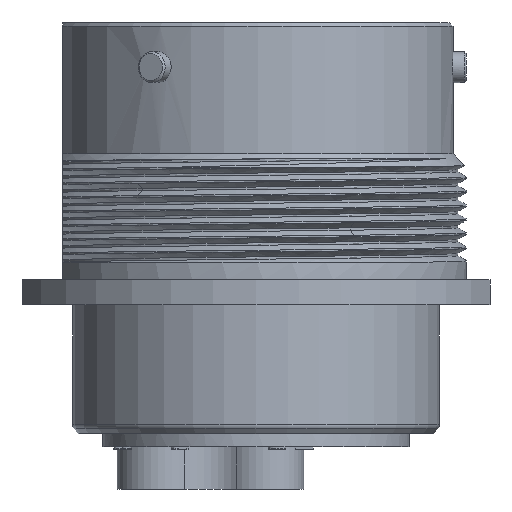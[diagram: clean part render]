
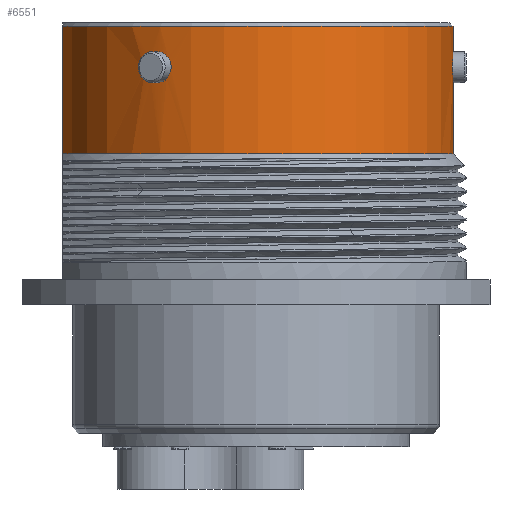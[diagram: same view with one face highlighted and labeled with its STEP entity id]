
A CAD part, left-side view. The second image highlights one B-rep face of the part: STEP entity #6551.
In plain terms, the highlighted cylindrical face has radius 20.053 mm (diameter 40.107 mm), a partial arc.
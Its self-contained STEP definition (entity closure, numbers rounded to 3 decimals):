
#177=CARTESIAN_POINT('',(0.,0.,
-0.381));
#178=DIRECTION('',(0.,0.,-1.));
#179=DIRECTION('',(0.196,0.981,0.));
#180=AXIS2_PLACEMENT_3D('',#177,#178,#179);
#187=CARTESIAN_POINT('',(0.,-20.053,-2.946));
#188=CARTESIAN_POINT('',(-0.253,-20.053,-2.946));
#189=CARTESIAN_POINT('',(-0.705,-20.044,
-3.056));
#190=CARTESIAN_POINT('',(-1.278,-20.014,
-3.511));
#191=CARTESIAN_POINT('',(-1.586,-19.991,
-4.158));
#192=CARTESIAN_POINT('',(-1.587,-19.99,
-4.878));
#193=CARTESIAN_POINT('',(-1.288,-20.014,
-5.523));
#194=CARTESIAN_POINT('',(-0.695,-20.045,
-5.993));
#195=CARTESIAN_POINT('',(-0.248,-20.053,-6.096));
#196=CARTESIAN_POINT('',(0.,-20.053,-6.096));
#198=CARTESIAN_POINT('',(0.,-20.053,-6.096));
#199=CARTESIAN_POINT('',(0.253,-20.053,-6.096));
#200=CARTESIAN_POINT('',(0.706,-20.044,
-5.986));
#201=CARTESIAN_POINT('',(1.279,-20.014,-5.53));
#202=CARTESIAN_POINT('',(1.586,-19.991,-4.884));
#203=CARTESIAN_POINT('',(1.587,-19.99,-4.166));
#204=CARTESIAN_POINT('',(1.289,-20.014,-3.521));
#205=CARTESIAN_POINT('',(0.696,-20.045,
-3.049));
#206=CARTESIAN_POINT('',(0.249,-20.053,-2.946));
#207=CARTESIAN_POINT('',(0.,-20.053,-2.946));
#209=CARTESIAN_POINT('',(17.367,10.027,-2.946));
#210=CARTESIAN_POINT('',(17.491,9.811,-2.946));
#211=CARTESIAN_POINT('',(17.707,9.42,-3.052));
#212=CARTESIAN_POINT('',(17.969,8.906,-3.504));
#213=CARTESIAN_POINT('',(18.105,8.622,-4.147));
#214=CARTESIAN_POINT('',(18.107,8.619,-4.891));
#215=CARTESIAN_POINT('',(17.966,8.912,-5.549));
#216=CARTESIAN_POINT('',(17.704,9.425,-5.992));
#217=CARTESIAN_POINT('',(17.49,9.814,-6.096));
#218=CARTESIAN_POINT('',(17.367,10.027,-6.096));
#220=CARTESIAN_POINT('',(17.367,10.027,-6.096));
#221=CARTESIAN_POINT('',(17.242,10.243,-6.096));
#222=CARTESIAN_POINT('',(17.01,10.626,-5.989));
#223=CARTESIAN_POINT('',(16.696,11.111,-5.538));
#224=CARTESIAN_POINT('',(16.518,11.371,-4.881));
#225=CARTESIAN_POINT('',(16.519,11.369,-4.151));
#226=CARTESIAN_POINT('',(16.699,11.106,-3.497));
#227=CARTESIAN_POINT('',(17.014,10.621,-3.051));
#228=CARTESIAN_POINT('',(17.243,10.24,-2.946));
#229=CARTESIAN_POINT('',(17.367,10.027,-2.946));
#231=CARTESIAN_POINT('',(-17.367,10.027,-2.946));
#232=CARTESIAN_POINT('',(-17.242,10.243,-2.946));
#233=CARTESIAN_POINT('',(-17.01,10.626,-3.053));
#234=CARTESIAN_POINT('',(-16.696,11.111,-3.505));
#235=CARTESIAN_POINT('',(-16.518,11.371,-4.161));
#236=CARTESIAN_POINT('',(-16.519,11.369,-4.891));
#237=CARTESIAN_POINT('',(-16.699,11.106,-5.545));
#238=CARTESIAN_POINT('',(-17.014,10.621,-5.992));
#239=CARTESIAN_POINT('',(-17.243,10.24,-6.096));
#240=CARTESIAN_POINT('',(-17.367,10.027,-6.096));
#242=CARTESIAN_POINT('',(-17.367,10.027,-6.096));
#243=CARTESIAN_POINT('',(-17.491,9.811,-6.096));
#244=CARTESIAN_POINT('',(-17.707,9.42,-5.991));
#245=CARTESIAN_POINT('',(-17.969,8.906,-5.539));
#246=CARTESIAN_POINT('',(-18.105,8.622,-4.897));
#247=CARTESIAN_POINT('',(-18.107,8.619,-4.151));
#248=CARTESIAN_POINT('',(-17.966,8.913,-3.492));
#249=CARTESIAN_POINT('',(-17.704,9.425,-3.05));
#250=CARTESIAN_POINT('',(-17.49,9.814,-2.946));
#251=CARTESIAN_POINT('',(-17.367,10.027,-2.946));
#253=DIRECTION('',(0.,0.,1.));
#254=VECTOR('',#253,12.954);
#255=CARTESIAN_POINT('',(3.922,19.666,-13.335));
#256=LINE('',#255,#254);
#257=DIRECTION('',(0.,0.,1.));
#258=VECTOR('',#257,12.954);
#259=CARTESIAN_POINT('',(-3.922,19.666,-13.335));
#260=LINE('',#259,#258);
#515=CARTESIAN_POINT('',(3.922,19.666,-0.381));
#517=CARTESIAN_POINT('',(-3.922,19.666,
-0.381));
#1579=CARTESIAN_POINT('',(0.,0.,-13.335));
#1580=DIRECTION('',(0.,0.,1.));
#1581=DIRECTION('',(-0.196,0.981,0.));
#1582=AXIS2_PLACEMENT_3D('',#1579,#1580,#1581);
#5262=CARTESIAN_POINT('',(-3.922,19.666,-13.335));
#5263=CARTESIAN_POINT('',(3.922,19.666,-13.335));
#5264=VERTEX_POINT('',#5262);
#5265=VERTEX_POINT('',#5263);
#5314=VERTEX_POINT('',#187);
#5315=VERTEX_POINT('',#196);
#5316=VERTEX_POINT('',#209);
#5317=VERTEX_POINT('',#218);
#5318=VERTEX_POINT('',#231);
#5319=VERTEX_POINT('',#240);
#5520=VERTEX_POINT('',#517);
#5523=VERTEX_POINT('',#515);
#6519=CARTESIAN_POINT('',(0.,0.,-45.312));
#6520=DIRECTION('',(0.,0.,1.));
#6521=DIRECTION('',(0.,1.,0.));
#6522=AXIS2_PLACEMENT_3D('',#6519,#6520,#6521);
#6523=CYLINDRICAL_SURFACE('',#6522,20.053);
#6524=ORIENTED_EDGE('',*,*,#6509,.F.);
#6526=ORIENTED_EDGE('',*,*,#6525,.F.);
#6528=ORIENTED_EDGE('',*,*,#6527,.F.);
#6530=ORIENTED_EDGE('',*,*,#6529,.T.);
#6531=EDGE_LOOP('',(#6524,#6526,#6528,#6530));
#6532=FACE_OUTER_BOUND('',#6531,.F.);
#6534=ORIENTED_EDGE('',*,*,#6533,.T.);
#6536=ORIENTED_EDGE('',*,*,#6535,.T.);
#6537=EDGE_LOOP('',(#6534,#6536));
#6538=FACE_BOUND('',#6537,.F.);
#6540=ORIENTED_EDGE('',*,*,#6539,.T.);
#6542=ORIENTED_EDGE('',*,*,#6541,.T.);
#6543=EDGE_LOOP('',(#6540,#6542));
#6544=FACE_BOUND('',#6543,.F.);
#6546=ORIENTED_EDGE('',*,*,#6545,.T.);
#6548=ORIENTED_EDGE('',*,*,#6547,.T.);
#6549=EDGE_LOOP('',(#6546,#6548));
#6550=FACE_BOUND('',#6549,.F.);
#181=CIRCLE('',#180,20.053);
#197=B_SPLINE_CURVE_WITH_KNOTS('',3,(#187,#188,#189,#190,#191,#192,#193,#194,
#195,#196),.UNSPECIFIED.,.F.,.F.,(4,1,1,1,1,1,1,4),(0.,0.143,
0.286,0.429,0.571,0.714,
0.857,1.),.UNSPECIFIED.);
#208=B_SPLINE_CURVE_WITH_KNOTS('',3,(#198,#199,#200,#201,#202,#203,#204,#205,
#206,#207),.UNSPECIFIED.,.F.,.F.,(4,1,1,1,1,1,1,4),(0.,0.143,
0.286,0.429,0.571,0.714,
0.857,1.),.UNSPECIFIED.);
#219=B_SPLINE_CURVE_WITH_KNOTS('',3,(#209,#210,#211,#212,#213,#214,#215,#216,
#217,#218),.UNSPECIFIED.,.F.,.F.,(4,1,1,1,1,1,1,4),(0.,0.143,
0.286,0.429,0.571,0.714,
0.857,1.),.UNSPECIFIED.);
#230=B_SPLINE_CURVE_WITH_KNOTS('',3,(#220,#221,#222,#223,#224,#225,#226,#227,
#228,#229),.UNSPECIFIED.,.F.,.F.,(4,1,1,1,1,1,1,4),(0.,0.143,
0.286,0.429,0.571,0.714,
0.857,1.),.UNSPECIFIED.);
#241=B_SPLINE_CURVE_WITH_KNOTS('',3,(#231,#232,#233,#234,#235,#236,#237,#238,
#239,#240),.UNSPECIFIED.,.F.,.F.,(4,1,1,1,1,1,1,4),(0.,0.143,
0.286,0.429,0.571,0.714,
0.857,1.),.UNSPECIFIED.);
#252=B_SPLINE_CURVE_WITH_KNOTS('',3,(#242,#243,#244,#245,#246,#247,#248,#249,
#250,#251),.UNSPECIFIED.,.F.,.F.,(4,1,1,1,1,1,1,4),(0.,0.143,
0.286,0.429,0.571,0.714,
0.857,1.),.UNSPECIFIED.);
#1583=CIRCLE('',#1582,20.053);
#6509=EDGE_CURVE('',#5523,#5520,#181,.T.);
#6525=EDGE_CURVE('',#5265,#5523,#256,.T.);
#6527=EDGE_CURVE('',#5264,#5265,#1583,.T.);
#6529=EDGE_CURVE('',#5264,#5520,#260,.T.);
#6533=EDGE_CURVE('',#5316,#5317,#219,.T.);
#6535=EDGE_CURVE('',#5317,#5316,#230,.T.);
#6539=EDGE_CURVE('',#5318,#5319,#241,.T.);
#6541=EDGE_CURVE('',#5319,#5318,#252,.T.);
#6545=EDGE_CURVE('',#5314,#5315,#197,.T.);
#6547=EDGE_CURVE('',#5315,#5314,#208,.T.);
#6551=ADVANCED_FACE('',(#6532,#6538,#6544,#6550),#6523,.T.);
